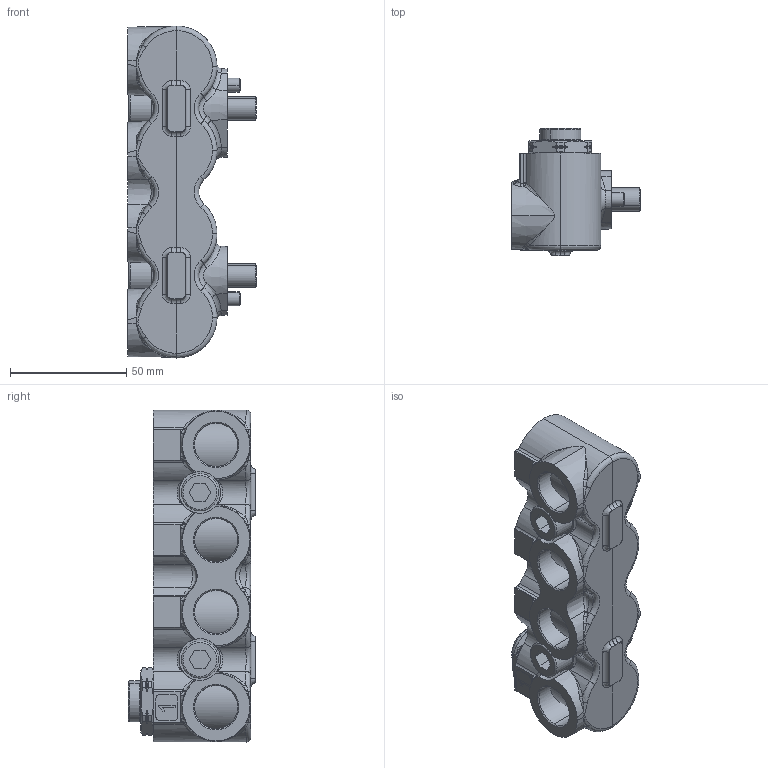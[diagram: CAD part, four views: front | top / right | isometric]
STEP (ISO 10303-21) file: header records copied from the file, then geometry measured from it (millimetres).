
FILE_DESCRIPTION (( 'STEP AP214' ), '1' );
FILE_NAME ('P7319-1A.STEP', '2023-05-25T09:25:41', ( '' ), ( '' ), 'SwSTEP 2.0', 'SolidWorks 2021', '' );
FILE_SCHEMA (( 'AUTOMOTIVE_DESIGN' ));
Length unit declared in the file: millimetre
Products named in the file (1): P7319-1A
Bounding box: 55.5 x 54.8 x 143 mm (x, y, z)
Volume: 189146.1 mm3; surface area: 41548.8 mm2
Topology: 8 solids, 8 shells, 505 faces, 1255 edges, 779 vertices
Faces by surface type: bspline 146, cylinder 144, plane 102, cone 89, torus 24
Entity records: 26962 total; most frequent: CARTESIAN_POINT 10579, ORIENTED_EDGE 2502, DIRECTION 1936, EDGE_CURVE 1251, AXIS2_PLACEMENT_3D 786, VERTEX_POINT 779, EDGE_LOOP 526, UNCERTAINTY_MEASURE_WITH_UNIT 515
